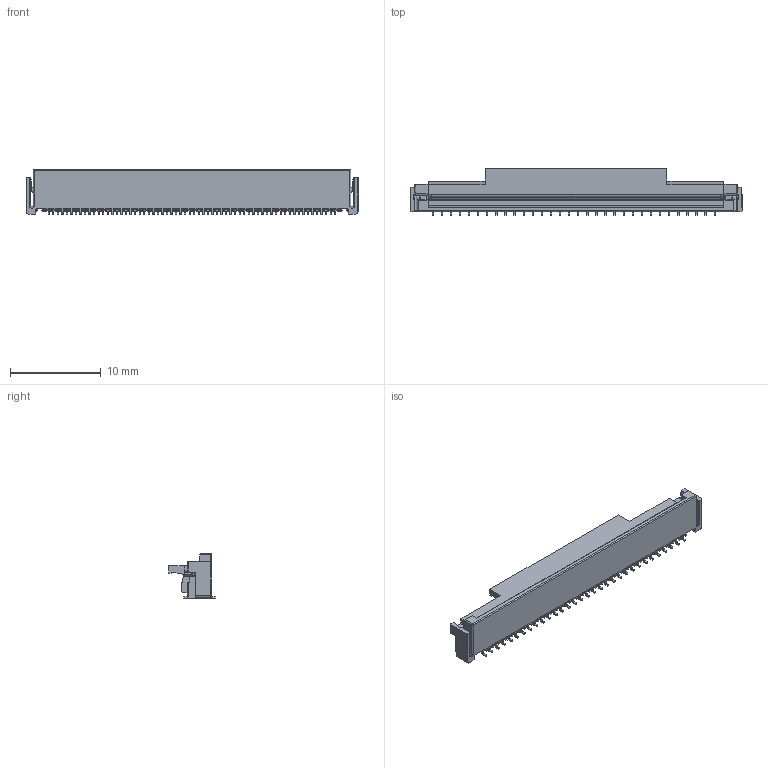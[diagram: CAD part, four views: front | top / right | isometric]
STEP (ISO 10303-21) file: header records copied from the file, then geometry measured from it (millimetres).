
FILE_DESCRIPTION (( 'STEP AP214' ), '1' );
FILE_NAME ('006251064010.STEP', '2017-10-11T08:29:58', ( 'Asmin' ), ( '' ), 'SwSTEP 2.0', 'SolidWorks 2014', '' );
FILE_SCHEMA (( 'AUTOMOTIVE_DESIGN' ));
Length unit declared in the file: millimetre
Products named in the file (1): 006251064010
Bounding box: 36.5 x 5.15 x 4.95 mm (x, y, z)
Volume: 337.9 mm3; surface area: 1005 mm2
Topology: 1 solids, 1 shells, 1365 faces, 4067 edges, 2704 vertices
Faces by surface type: plane 1065, cylinder 288, bspline 8, cone 4
Entity records: 45628 total; most frequent: CARTESIAN_POINT 8453, ORIENTED_EDGE 8134, DIRECTION 7339, EDGE_CURVE 4067, VECTOR 3445, LINE 3445, VERTEX_POINT 2704, AXIS2_PLACEMENT_3D 1947
